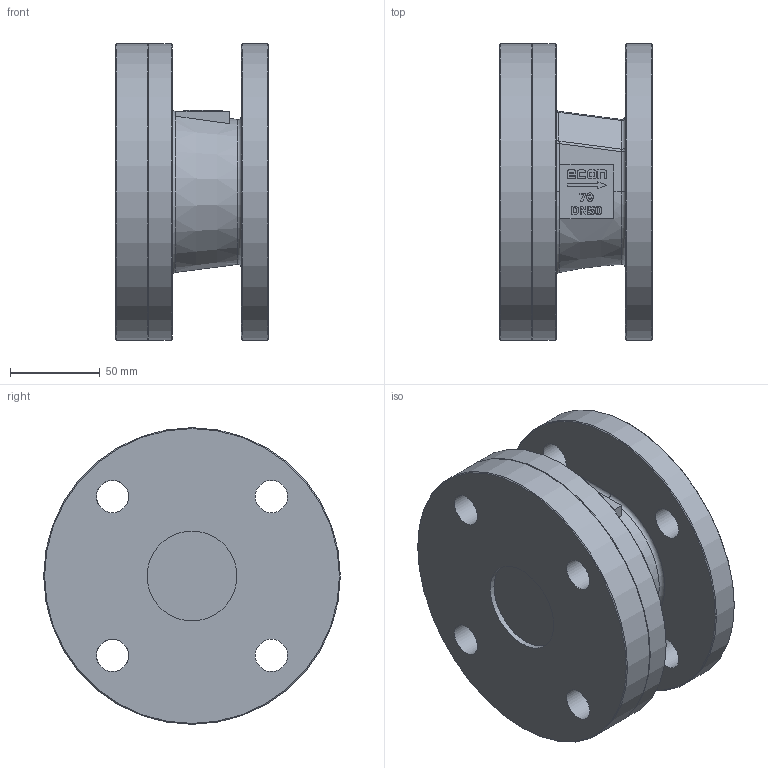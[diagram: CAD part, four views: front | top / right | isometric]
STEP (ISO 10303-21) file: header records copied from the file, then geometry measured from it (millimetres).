
FILE_DESCRIPTION(/* description */ ('Eriks item no: 11810411'),/* implementation_level */ '2;1');
FILE_NAME(/* name */ 'L:\DATA\ENG\Inventor\Econ 3D modellen\terugslagklep\70NGY\70NGY-DN50-PN16-NBR.stp',/* time_stamp */ '2023-12-05T08:15:03+01:00',/* author */ ('roger.thijssen'),/* organization */ (''),/* preprocessor_version */ 'ST-DEVELOPER v18',/* originating_system */ 'Autodesk Inventor 2020',/* authorisation */ '');
FILE_SCHEMA (('CONFIG_CONTROL_DESIGN'));
Length unit declared in the file: millimetre
Products named in the file (1): Check valve, 70NGY-DN50-PN16-NBR
Bounding box: 85 x 165 x 165 mm (x, y, z)
Volume: 1173734.5 mm3; surface area: 115108.9 mm2
Topology: 1 solids, 1 shells, 208 faces, 546 edges, 360 vertices
Faces by surface type: plane 106, bspline 53, cylinder 40, cone 7, torus 2
Full cylindrical faces by diameter (mm): 18 x8, 50 x2, 165 x3
Entity records: 7033 total; most frequent: CARTESIAN_POINT 2014, ORIENTED_EDGE 1092, DIRECTION 881, EDGE_CURVE 546, VERTEX_POINT 360, LINE 341, VECTOR 341, AXIS2_PLACEMENT_3D 270
